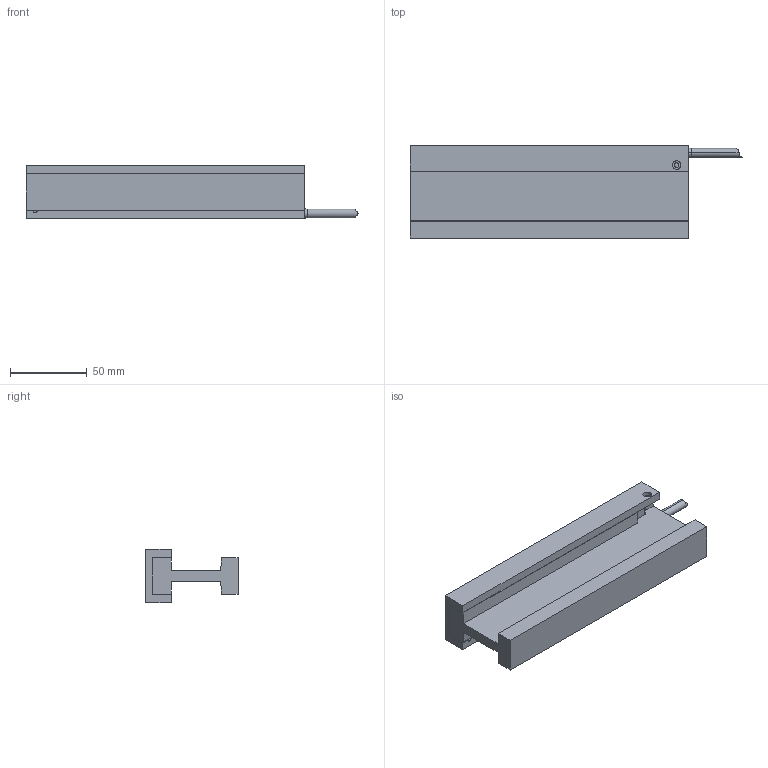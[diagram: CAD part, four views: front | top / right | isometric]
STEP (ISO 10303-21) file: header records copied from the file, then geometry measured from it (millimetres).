
FILE_DESCRIPTION (( 'STEP AP214' ), '1' );
FILE_NAME ('DX30F-C3-NH -REV.step', '2022-05-06T02:56:44', ( '' ), ( '' ), 'SwSTEP 2.0', 'SolidWorks 2020', '' );
FILE_SCHEMA (( 'AUTOMOTIVE_DESIGN' ));
Length unit declared in the file: millimetre
Products named in the file (1): DX30F-C3-NH -REV
Bounding box: 216 x 60 x 35 mm (x, y, z)
Volume: 191625.2 mm3; surface area: 61737.4 mm2
Topology: 3 solids, 4 shells, 109 faces, 270 edges, 157 vertices
Faces by surface type: cylinder 41, plane 40, cone 26, torus 2
Entity records: 4278 total; most frequent: DIRECTION 538, CARTESIAN_POINT 538, ORIENTED_EDGE 488, EDGE_CURVE 244, AXIS2_PLACEMENT_3D 193, VERTEX_POINT 157, VECTOR 152, LINE 152
